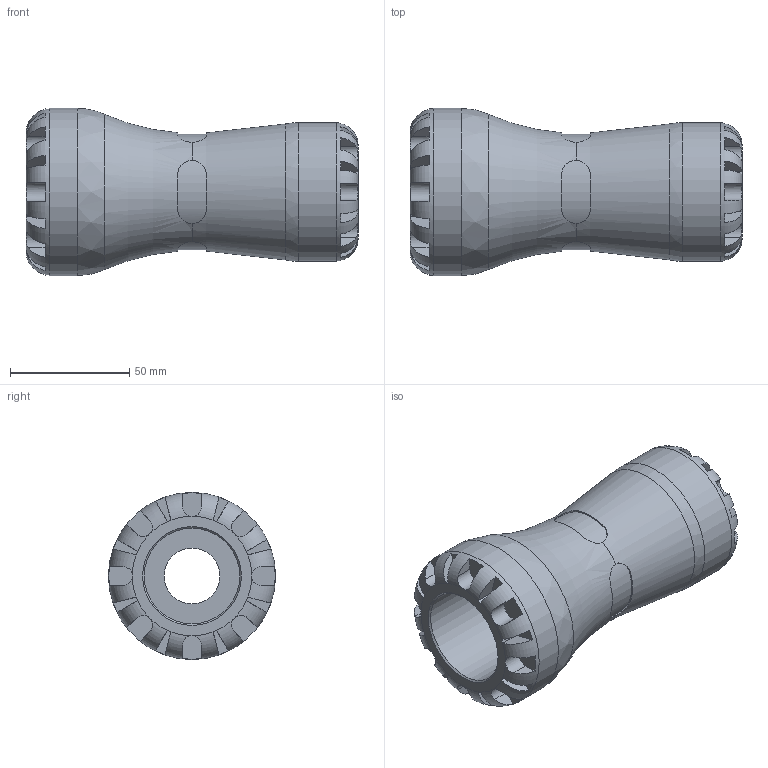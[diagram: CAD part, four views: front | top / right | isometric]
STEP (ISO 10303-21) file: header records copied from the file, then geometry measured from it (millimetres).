
FILE_DESCRIPTION(/* description */ ('PLASSON COPPER PIPE ADAPTOR 40x28 SERIES 1'),/* implementation_level */ '2;1');
FILE_NAME(/* name */ 'C:\Dropbox\KIMPROJECTS-Inventor\99-16-3568-Processing\1001C\1001C0040028_1901C0040028.ipt.stp',/* time_stamp */ '2017-01-22T10:04:53+02:00',/* author */ ('KIM'),/* organization */ (''),/* preprocessor_version */ 'ST-DEVELOPER v15.6',/* originating_system */ 'Autodesk Inventor 2015',/* authorisation */ '');
FILE_SCHEMA (('AUTOMOTIVE_DESIGN { 1 0 10303 214 3 1 1 }'));
Length unit declared in the file: millimetre
Products named in the file (1): 1001C0040028_1901C0040028
Bounding box: 139 x 70 x 70 mm (x, y, z)
Volume: 228571.3 mm3; surface area: 47769 mm2
Topology: 1 solids, 1 shells, 165 faces, 431 edges, 270 vertices
Faces by surface type: plane 108, cylinder 49, torus 4, cone 2, bspline 2
Full cylindrical faces by diameter (mm): 23.333 x1, 28 x1, 40 x1, 58 x1, 70 x1
Entity records: 6550 total; most frequent: CARTESIAN_POINT 2504, ORIENTED_EDGE 832, DIRECTION 772, EDGE_CURVE 416, AXIS2_PLACEMENT_3D 314, VERTEX_POINT 266, EDGE_LOOP 180, STYLED_ITEM 166
